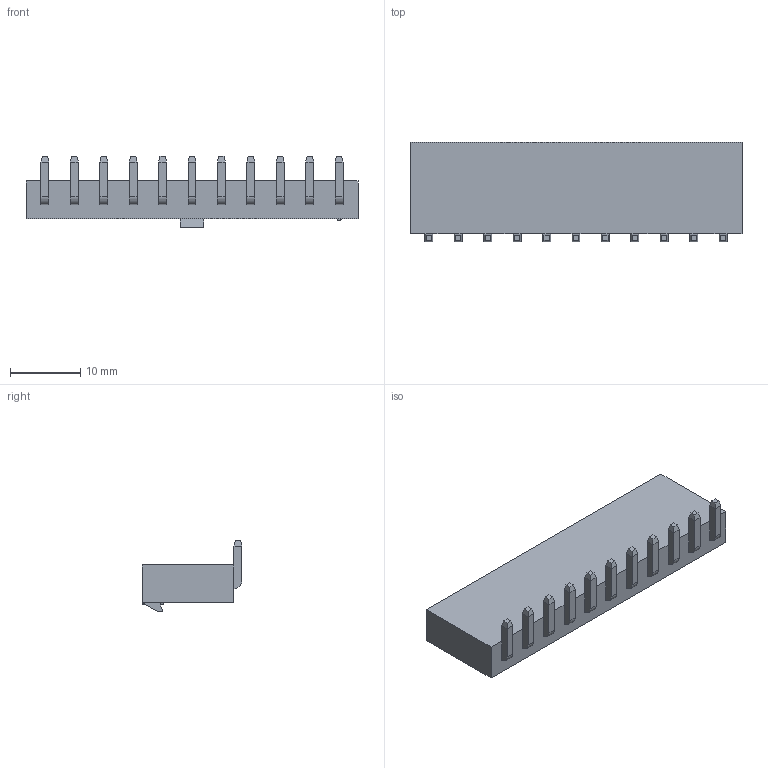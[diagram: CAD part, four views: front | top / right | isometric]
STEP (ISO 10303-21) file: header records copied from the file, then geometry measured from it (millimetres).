
FILE_DESCRIPTION(/* description */ (''),/* implementation_level */ '2;1');
FILE_NAME(/* name */ 'E:\工作文件\重新\4.2\5557\05-DL42007-42004（单排）\HC-5557-NAW-05(弯针-HCTL)\HC-5557-11AW-05(弯针-HCTL).stp',/* time_stamp */ '2024-03-13T11:43:22+08:00',/* author */ ('admin'),/* organization */ (''),/* preprocessor_version */ 'ST-DEVELOPER v18.1',/* originating_system */ 'Autodesk Inventor 2021',/* authorisation */ '');
FILE_SCHEMA (('AUTOMOTIVE_DESIGN { 1 0 10303 214 3 1 1 }'));
Length unit declared in the file: millimetre
Products named in the file (1): HC-5557-11AW-05(弯针-HCTL)
Bounding box: 47.4 x 14.24 x 10.15 mm (x, y, z)
Volume: 1736.5 mm3; surface area: 4563.4 mm2
Topology: 1 solids, 1 shells, 287 faces, 677 edges, 414 vertices
Faces by surface type: plane 275, cylinder 12
Entity records: 8198 total; most frequent: CARTESIAN_POINT 1379, ORIENTED_EDGE 1354, DIRECTION 1277, EDGE_CURVE 677, LINE 653, VECTOR 653, VERTEX_POINT 414, AXIS2_PLACEMENT_3D 312
